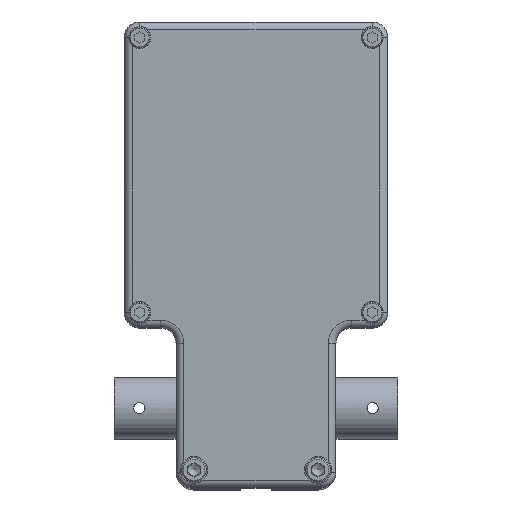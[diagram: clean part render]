
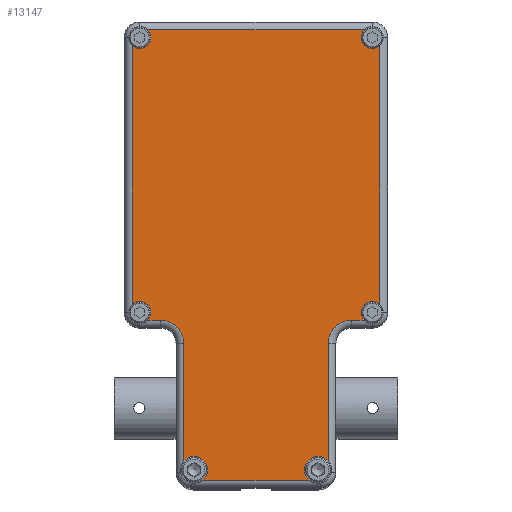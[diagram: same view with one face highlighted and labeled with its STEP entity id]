
A CAD part, top view. The second image highlights one B-rep face of the part: STEP entity #13147.
In plain terms, the highlighted planar face has unit normal (0, 0, 1).
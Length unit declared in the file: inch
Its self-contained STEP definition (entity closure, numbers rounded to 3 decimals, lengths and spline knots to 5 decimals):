
#202 = DIRECTION ( 'NONE',  ( 0., 0., 1. ) ) ;
#306 = CARTESIAN_POINT ( 'NONE',  ( -1.29, -1.29, 3.187 ) ) ;
#395 = CARTESIAN_POINT ( 'NONE',  ( -1.165, -0.85676, 3.187 ) ) ;
#605 = DIRECTION ( 'NONE',  ( -1., 0., 0. ) ) ;
#667 = AXIS2_PLACEMENT_3D ( 'NONE', #18168, #2245, #11094 ) ;
#712 = CARTESIAN_POINT ( 'NONE',  ( -1.29, -1.165, 3.187 ) ) ;
#944 = ORIENTED_EDGE ( 'NONE', *, *, #22499, .T. ) ;
#1445 = AXIS2_PLACEMENT_3D ( 'NONE', #16183, #3993, #14203 ) ;
#1483 = VERTEX_POINT ( 'NONE', #20674 ) ;
#1499 = DIRECTION ( 'NONE',  ( 0., 1., 0. ) ) ;
#1588 = DIRECTION ( 'NONE',  ( 0., -1., 0. ) ) ;
#1697 = VERTEX_POINT ( 'NONE', #16565 ) ;
#2025 = DIRECTION ( 'NONE',  ( 1., 0., 0. ) ) ;
#2111 = EDGE_CURVE ( 'NONE', #9130, #1483, #17355, .T. ) ;
#2128 = LINE ( 'NONE', #12598, #13880 ) ;
#2245 = DIRECTION ( 'NONE',  ( 0., 0., -1. ) ) ;
#2638 = AXIS2_PLACEMENT_3D ( 'NONE', #20194, #6142, #15080 ) ;
#2666 = LINE ( 'NONE', #2784, #22500 ) ;
#2745 = ORIENTED_EDGE ( 'NONE', *, *, #20310, .T. ) ;
#2748 = CARTESIAN_POINT ( 'NONE',  ( 1.165, -0.85676, 3.187 ) ) ;
#2784 = CARTESIAN_POINT ( 'NONE',  ( -1.29, 1.415, 3.187 ) ) ;
#2806 = LINE ( 'NONE', #13502, #11659 ) ;
#2881 = DIRECTION ( 'NONE',  ( 1., 0., 0. ) ) ;
#3014 = CIRCLE ( 'NONE', #2638, 0.2185 ) ;
#3114 = LINE ( 'NONE', #22622, #19499 ) ;
#3226 = ORIENTED_EDGE ( 'NONE', *, *, #18061, .T. ) ;
#3523 = AXIS2_PLACEMENT_3D ( 'NONE', #18401, #14919, #11431 ) ;
#3599 = VERTEX_POINT ( 'NONE', #6010 ) ;
#3776 = CARTESIAN_POINT ( 'NONE',  ( -1.875, 1.54, 3.187 ) ) ;
#3909 = VERTEX_POINT ( 'NONE', #22748 ) ;
#3993 = DIRECTION ( 'NONE',  ( 0., 0., 1. ) ) ;
#4550 = EDGE_CURVE ( 'NONE', #15574, #8426, #7627, .T. ) ;
#4684 = ORIENTED_EDGE ( 'NONE', *, *, #10144, .F. ) ;
#4714 = VERTEX_POINT ( 'NONE', #12880 ) ;
#4742 = VECTOR ( 'NONE', #7824, 39.37008 ) ;
#4817 = ORIENTED_EDGE ( 'NONE', *, *, #2111, .T. ) ;
#4987 = DIRECTION ( 'NONE',  ( 1., 0., 0. ) ) ;
#5078 = VECTOR ( 'NONE', #2881, 39.37008 ) ;
#5130 = CARTESIAN_POINT ( 'NONE',  ( 1.54, 1.415, 3.187 ) ) ;
#5276 = CARTESIAN_POINT ( 'NONE',  ( 0.85676, -1.165, 3.187 ) ) ;
#5313 = VERTEX_POINT ( 'NONE', #395 ) ;
#5457 = DIRECTION ( 'NONE',  ( 1., 0., 0. ) ) ;
#5795 = EDGE_CURVE ( 'NONE', #18591, #13911, #21971, .T. ) ;
#6010 = CARTESIAN_POINT ( 'NONE',  ( -2., 5.84548, 3.187 ) ) ;
#6142 = DIRECTION ( 'NONE',  ( 0., 0., 1. ) ) ;
#6555 = CARTESIAN_POINT ( 'NONE',  ( 1.165, 1.04, 3.187 ) ) ;
#6693 = CIRCLE ( 'NONE', #20783, 0.18 ) ;
#6949 = CARTESIAN_POINT ( 'NONE',  ( -1.875, 5.975, 3.187 ) ) ;
#7190 = AXIS2_PLACEMENT_3D ( 'NONE', #7437, #21711, #14628 ) ;
#7437 = CARTESIAN_POINT ( 'NONE',  ( -1., -1., 3.187 ) ) ;
#7627 = LINE ( 'NONE', #9377, #8343 ) ;
#7824 = DIRECTION ( 'NONE',  ( 1., 0., 0. ) ) ;
#7925 = EDGE_LOOP ( 'NONE', ( #7960, #13027, #16061, #21389, #22925, #2745, #944, #4684, #3226, #12839, #16570, #19717, #22141, #20994, #14343, #4817 ) ) ;
#7960 = ORIENTED_EDGE ( 'NONE', *, *, #21039, .T. ) ;
#8143 = DIRECTION ( 'NONE',  ( 1., 0., 0. ) ) ;
#8204 = EDGE_CURVE ( 'NONE', #19480, #17291, #16059, .T. ) ;
#8343 = VECTOR ( 'NONE', #12738, 39.37008 ) ;
#8426 = VERTEX_POINT ( 'NONE', #6555 ) ;
#9021 = AXIS2_PLACEMENT_3D ( 'NONE', #3776, #10865, #2025 ) ;
#9130 = VERTEX_POINT ( 'NONE', #10928 ) ;
#9149 = EDGE_CURVE ( 'NONE', #18591, #5313, #20893, .T. ) ;
#9377 = CARTESIAN_POINT ( 'NONE',  ( 1.165, -1.29, 3.187 ) ) ;
#9397 = DIRECTION ( 'NONE',  ( -1., 0., 0. ) ) ;
#9841 = EDGE_CURVE ( 'NONE', #1697, #3909, #2128, .T. ) ;
#10144 = EDGE_CURVE ( 'NONE', #13009, #18542, #17609, .T. ) ;
#10548 = DIRECTION ( 'NONE',  ( 0., -1., 0. ) ) ;
#10838 = AXIS2_PLACEMENT_3D ( 'NONE', #306, #16120, #9397 ) ;
#10865 = DIRECTION ( 'NONE',  ( 0., 0., 1. ) ) ;
#10928 = CARTESIAN_POINT ( 'NONE',  ( -1.54, 1.415, 3.187 ) ) ;
#11094 = DIRECTION ( 'NONE',  ( -1., 0., 0. ) ) ;
#11431 = DIRECTION ( 'NONE',  ( -1., 0., 0. ) ) ;
#11659 = VECTOR ( 'NONE', #1499, 39.37008 ) ;
#11973 = CARTESIAN_POINT ( 'NONE',  ( -2., 1.66952, 3.187 ) ) ;
#12170 = CARTESIAN_POINT ( 'NONE',  ( 2., 1.66952, 3.187 ) ) ;
#12598 = CARTESIAN_POINT ( 'NONE',  ( -1.29, 6.1, 3.187 ) ) ;
#12738 = DIRECTION ( 'NONE',  ( 0., 1., 0. ) ) ;
#12758 = PLANE ( 'NONE',  #10838 ) ;
#12766 = EDGE_CURVE ( 'NONE', #15574, #13911, #3014, .T. ) ;
#12839 = ORIENTED_EDGE ( 'NONE', *, *, #13986, .F. ) ;
#12880 = CARTESIAN_POINT ( 'NONE',  ( 2., 5.84548, 3.187 ) ) ;
#13009 = VERTEX_POINT ( 'NONE', #12170 ) ;
#13027 = ORIENTED_EDGE ( 'NONE', *, *, #9149, .F. ) ;
#13147 = ADVANCED_FACE ( 'NONE', ( #17976 ), #12758, .F. ) ;
#13458 = CARTESIAN_POINT ( 'NONE',  ( -1.29, 1.415, 3.187 ) ) ;
#13502 = CARTESIAN_POINT ( 'NONE',  ( 2., -1.29, 3.187 ) ) ;
#13880 = VECTOR ( 'NONE', #605, 39.37008 ) ;
#13897 = AXIS2_PLACEMENT_3D ( 'NONE', #21230, #202, #5457 ) ;
#13911 = VERTEX_POINT ( 'NONE', #5276 ) ;
#13986 = EDGE_CURVE ( 'NONE', #1697, #4714, #16677, .T. ) ;
#14203 = DIRECTION ( 'NONE',  ( 1., 0., 0. ) ) ;
#14284 = EDGE_CURVE ( 'NONE', #3599, #17291, #20780, .T. ) ;
#14343 = ORIENTED_EDGE ( 'NONE', *, *, #21845, .T. ) ;
#14628 = DIRECTION ( 'NONE',  ( 1., 0., 0. ) ) ;
#14919 = DIRECTION ( 'NONE',  ( 0., 0., -1. ) ) ;
#15080 = DIRECTION ( 'NONE',  ( 1., 0., 0. ) ) ;
#15574 = VERTEX_POINT ( 'NONE', #2748 ) ;
#16059 = CIRCLE ( 'NONE', #9021, 0.18 ) ;
#16061 = ORIENTED_EDGE ( 'NONE', *, *, #5795, .T. ) ;
#16120 = DIRECTION ( 'NONE',  ( 0., 0., -1. ) ) ;
#16183 = CARTESIAN_POINT ( 'NONE',  ( 1.875, 5.975, 3.187 ) ) ;
#16565 = CARTESIAN_POINT ( 'NONE',  ( 1.74548, 6.1, 3.187 ) ) ;
#16570 = ORIENTED_EDGE ( 'NONE', *, *, #9841, .T. ) ;
#16677 = CIRCLE ( 'NONE', #1445, 0.18 ) ;
#16939 = LINE ( 'NONE', #13458, #5078 ) ;
#17291 = VERTEX_POINT ( 'NONE', #11973 ) ;
#17355 = CIRCLE ( 'NONE', #667, 0.375 ) ;
#17394 = DIRECTION ( 'NONE',  ( 0., 0., 1. ) ) ;
#17605 = CIRCLE ( 'NONE', #3523, 0.375 ) ;
#17609 = CIRCLE ( 'NONE', #13897, 0.18 ) ;
#17897 = CARTESIAN_POINT ( 'NONE',  ( -1.74548, 1.415, 3.187 ) ) ;
#17976 = FACE_OUTER_BOUND ( 'NONE', #7925, .T. ) ;
#18061 = EDGE_CURVE ( 'NONE', #13009, #4714, #2806, .T. ) ;
#18151 = VERTEX_POINT ( 'NONE', #5130 ) ;
#18168 = CARTESIAN_POINT ( 'NONE',  ( -1.54, 1.04, 3.187 ) ) ;
#18401 = CARTESIAN_POINT ( 'NONE',  ( 1.54, 1.04, 3.187 ) ) ;
#18539 = EDGE_CURVE ( 'NONE', #3599, #3909, #6693, .T. ) ;
#18542 = VERTEX_POINT ( 'NONE', #22521 ) ;
#18591 = VERTEX_POINT ( 'NONE', #19492 ) ;
#19480 = VERTEX_POINT ( 'NONE', #17897 ) ;
#19492 = CARTESIAN_POINT ( 'NONE',  ( -0.85676, -1.165, 3.187 ) ) ;
#19499 = VECTOR ( 'NONE', #10548, 39.37008 ) ;
#19717 = ORIENTED_EDGE ( 'NONE', *, *, #18539, .F. ) ;
#20050 = VECTOR ( 'NONE', #1588, 39.37008 ) ;
#20194 = CARTESIAN_POINT ( 'NONE',  ( 1., -1., 3.187 ) ) ;
#20310 = EDGE_CURVE ( 'NONE', #8426, #18151, #17605, .T. ) ;
#20674 = CARTESIAN_POINT ( 'NONE',  ( -1.165, 1.04, 3.187 ) ) ;
#20780 = LINE ( 'NONE', #22750, #20050 ) ;
#20783 = AXIS2_PLACEMENT_3D ( 'NONE', #6949, #17394, #4987 ) ;
#20893 = CIRCLE ( 'NONE', #7190, 0.2185 ) ;
#20994 = ORIENTED_EDGE ( 'NONE', *, *, #8204, .F. ) ;
#21039 = EDGE_CURVE ( 'NONE', #1483, #5313, #3114, .T. ) ;
#21230 = CARTESIAN_POINT ( 'NONE',  ( 1.875, 1.54, 3.187 ) ) ;
#21389 = ORIENTED_EDGE ( 'NONE', *, *, #12766, .F. ) ;
#21711 = DIRECTION ( 'NONE',  ( 0., 0., 1. ) ) ;
#21845 = EDGE_CURVE ( 'NONE', #19480, #9130, #2666, .T. ) ;
#21971 = LINE ( 'NONE', #712, #4742 ) ;
#22141 = ORIENTED_EDGE ( 'NONE', *, *, #14284, .T. ) ;
#22499 = EDGE_CURVE ( 'NONE', #18151, #18542, #16939, .T. ) ;
#22500 = VECTOR ( 'NONE', #8143, 39.37008 ) ;
#22521 = CARTESIAN_POINT ( 'NONE',  ( 1.74548, 1.415, 3.187 ) ) ;
#22622 = CARTESIAN_POINT ( 'NONE',  ( -1.165, -1.29, 3.187 ) ) ;
#22748 = CARTESIAN_POINT ( 'NONE',  ( -1.74548, 6.1, 3.187 ) ) ;
#22750 = CARTESIAN_POINT ( 'NONE',  ( -2., -1.29, 3.187 ) ) ;
#22925 = ORIENTED_EDGE ( 'NONE', *, *, #4550, .T. ) ;
